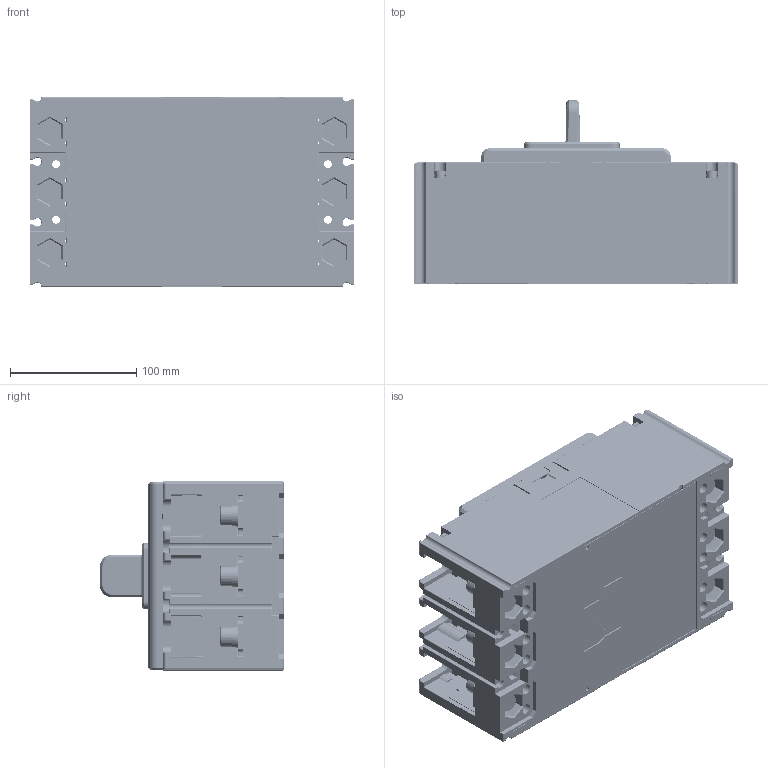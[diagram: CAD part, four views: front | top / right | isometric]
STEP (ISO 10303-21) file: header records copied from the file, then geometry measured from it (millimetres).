
FILE_DESCRIPTION((''),'2;1');
FILE_NAME('CDM6SPV-400F_3320_315A__ASM','2025-06-26T',('youjie.zhu'),(''),'PRO/ENGINEER BY PARAMETRIC TECHNOLOGY CORPORATION, 2015440','PRO/ENGINEER BY PARAMETRIC TECHNOLOGY CORPORATION, 2015440','');
FILE_SCHEMA(('CONFIG_CONTROL_DESIGN'));
Products named in the file (50): JZ-5DLX_024_271_1_1; GB_T809-M5X16_2_1; 5024027100_ASM_1_ASM_1_ASM; 8551033800_2_1; 8955003200_2_1; 5551071100_ASM_2_ASM_1_ASM; 8585066900_2_1; 5420039700_ASM_3_ASM_1_ASM; 5420039900_ASM_3_ASM_1_ASM; 5420040500_ASM_3_ASM_1_ASM; 8420028700_2_1; 5420040000_ASM_3_ASM_1_ASM; 5420040600_ASM_3_ASM_1_ASM; 8585067000_2_1; 5420039800_ASM_3_ASM_1_ASM; 5420040100_ASM_3_ASM_1_ASM; 5420040700_ASM_3_ASM_1_ASM; 6176013600_ASM_2_ASM_1_ASM; 5850007500_ASM_2_1; 6760011700_ASM_2_ASM_1_ASM; GZ_5DLX_315_446_1_1; GB_T809-M3X8_2_1; 5315044600_ASM_1_ASM_1_ASM; 8253201300_2_1; 8282201200_AF0_2_1; 5315045000_ASM_1_ASM_1_ASM; 8315063600_2_1; 8253057400_2_1; 8865077500_AF0_2_1; 8865077600_AF0_2_1; 5253021200_ASM_2_ASM_1_ASM; 8742103900_1_1; 6716014900_ASM_3_ASM_1; 8742103700_2_1; 8742105000_1_1; GB_T70_1-M10X25_2_1; GB_T9074_26-10_2_1; GB_T97_4_10_2_1; 5850002600_ASM_2_ASM_1_ASM; GB_T823-M5X35_2_1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
Assembly tree (97 placements, depth 9):
  CDM6SPV-400F_3320_315A__ASM
    CDM6SPV-400FN_3P_ASM_1_ASM
      2256022500_ASM_2_ASM_1_ASM
        6760011700_ASM_2_ASM_1_ASM
          5024027100_ASM_1_ASM_1_ASM
            JZ-5DLX_024_271_1_1
            GB_T809-M5X16_2_1  x8
          5551071100_ASM_2_ASM_1_ASM  x3
            8551033800_2_1
            8955003200_2_1
          6176013600_ASM_2_ASM_1_ASM
            5420040500_ASM_3_ASM_1_ASM
              5420039900_ASM_3_ASM_1_ASM
                5420039700_ASM_3_ASM_1_ASM
                  8585066900_2_1
            5420040600_ASM_3_ASM_1_ASM
              5420040000_ASM_3_ASM_1_ASM
                8420028700_2_1
            5420040700_ASM_3_ASM_1_ASM
              5420040100_ASM_3_ASM_1_ASM
                5420039800_ASM_3_ASM_1_ASM
                  8585067000_2_1
          5850007500_ASM_2_1  x18
        5315045000_ASM_1_ASM_1_ASM
          5315044600_ASM_1_ASM_1_ASM
            GZ_5DLX_315_446_1_1
            GB_T809-M3X8_2_1  x4
          8253201300_2_1
          8282201200_AF0_2_1
        8315063600_2_1
        5253021200_ASM_2_ASM_1_ASM
          8253057400_2_1
          8865077500_AF0_2_1
          8865077600_AF0_2_1
        8742103900_1_1
        6716014900_ASM_3_ASM_1
        8742103700_2_1  x3
        8742105000_1_1  x3
        5850002600_ASM_2_ASM_1_ASM  x6
          GB_T70_1-M10X25_2_1
          GB_T9074_26-10_2_1
          GB_T97_4_10_2_1
        5850007400_ASM_2_ASM_1_ASM  x8
          GB_T823-M5X35_2_1
          7090300501K_GB_T93_5_2_1
          GB_T97_4_5_2_1
        5850007700_ASM_2_ASM_1_ASM  x4
          7010100305R01_GB_T823_M3X10_2_1
          7090300201_GB_T93_3_2_1
          GB_T97_4_3_2_1
Bounding box: 257 x 145.9 x 150 mm (x, y, z)
Volume: 1424320.8 mm3; surface area: 649429.2 mm2
Topology: 90 solids, 134 shells, 5458 faces, 14405 edges, 9241 vertices
Faces by surface type: plane 3039, cylinder 1680, cone 204, torus 188, extrusion 160, sphere 100, bspline 87
Entity records: 149193 total; most frequent: CARTESIAN_POINT 37537, ORIENTED_EDGE 23338, DIRECTION 22761, EDGE_CURVE 11701, VECTOR 8029, LINE 7869, VERTEX_POINT 7606, AXIS2_PLACEMENT_3D 7366
